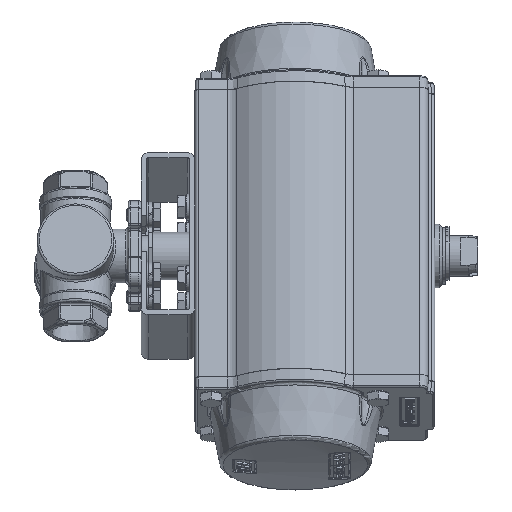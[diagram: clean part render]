
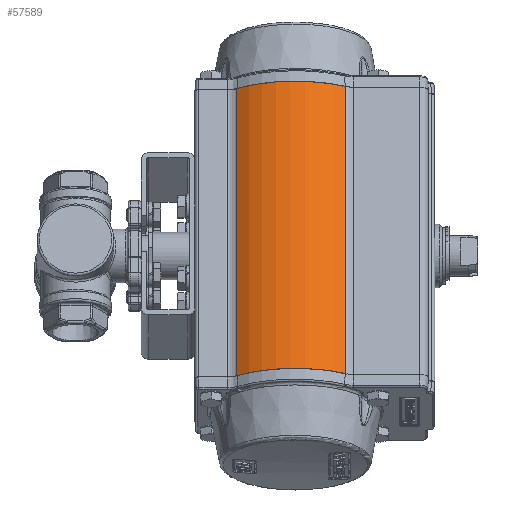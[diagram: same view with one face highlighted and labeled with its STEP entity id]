
A CAD part, top view. The second image highlights one B-rep face of the part: STEP entity #57589.
In plain terms, the highlighted cylindrical face has radius 42 mm (diameter 84 mm), a partial arc.
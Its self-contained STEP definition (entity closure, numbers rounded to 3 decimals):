
#50363=CARTESIAN_POINT('',(-87.728,-221.367,39.423));
#50364=VERTEX_POINT('',#50363);
#50372=CARTESIAN_POINT('',(-137.957,-222.353,36.726));
#50373=VERTEX_POINT('',#50372);
#50374=CARTESIAN_POINT('',(-110.923,-233.393,6.538));
#50375=DIRECTION('',(0.0,-0.939,0.343));
#50376=DIRECTION('',(-1.0,0.0,0.0));
#50377=AXIS2_PLACEMENT_3D('',#50374,#50375,#50376);
#50378=CIRCLE('',#50377,42.);
#50379=EDGE_CURVE('',#50364,#50373,#50378,.T.);
#57545=CARTESIAN_POINT('',(-137.957,-89.179,-11.975));
#57546=VERTEX_POINT('',#57545);
#57547=CARTESIAN_POINT('',(-137.957,-222.353,36.726));
#57548=DIRECTION('',(0.,0.939,-0.343));
#57549=VECTOR('',#57548,141.8);
#57550=LINE('',#57547,#57549);
#57551=EDGE_CURVE('',#50373,#57546,#57550,.T.);
#57565=CARTESIAN_POINT('',(-110.923,-100.218,-42.163));
#57566=DIRECTION('',(0.,-0.939,0.343));
#57567=DIRECTION('',(-1.0,0.0,0.0));
#57568=AXIS2_PLACEMENT_3D('',#57565,#57566,#57567);
#57569=CYLINDRICAL_SURFACE('',#57568,42.);
#57570=ORIENTED_EDGE('',*,*,#50379,.F.);
#57571=CARTESIAN_POINT('',(-87.728,-88.193,-9.279));
#57572=VERTEX_POINT('',#57571);
#57573=CARTESIAN_POINT('',(-87.728,-88.193,-9.279));
#57574=DIRECTION('',(0.,-0.939,0.343));
#57575=VECTOR('',#57574,141.8);
#57576=LINE('',#57573,#57575);
#57577=EDGE_CURVE('',#57572,#50364,#57576,.T.);
#57578=ORIENTED_EDGE('',*,*,#57577,.F.);
#57579=CARTESIAN_POINT('',(-110.923,-100.218,-42.163));
#57580=DIRECTION('',(0.0,0.939,-0.343));
#57581=DIRECTION('',(-1.0,0.0,0.0));
#57582=AXIS2_PLACEMENT_3D('',#57579,#57580,#57581);
#57583=CIRCLE('',#57582,42.);
#57584=EDGE_CURVE('',#57546,#57572,#57583,.T.);
#57585=ORIENTED_EDGE('',*,*,#57584,.F.);
#57586=ORIENTED_EDGE('',*,*,#57551,.F.);
#57587=EDGE_LOOP('',(#57570,#57578,#57585,#57586));
#57588=FACE_OUTER_BOUND('',#57587,.T.);
#57589=ADVANCED_FACE('',(#57588),#57569,.T.);
